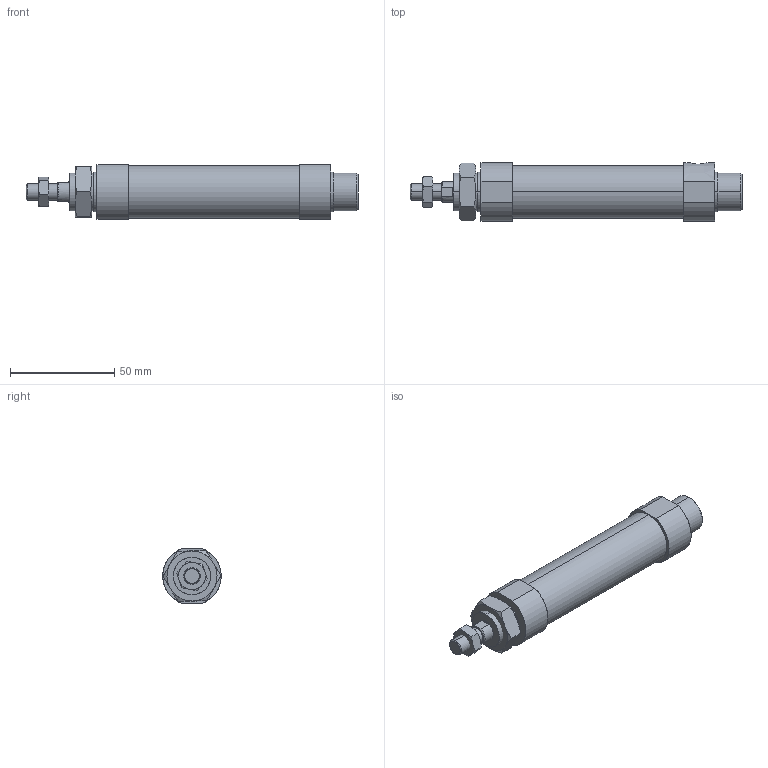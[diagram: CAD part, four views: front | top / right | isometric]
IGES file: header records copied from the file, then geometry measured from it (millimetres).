
Start section: SolidWorks IGES file using analytic representation for surfaces
Global section: file name: C:\Users\Toshiba\Desktop\J#1-20-15(25)-N.IGS; native system: SolidWorks 2014; preprocessor: SolidWorks 2014; author: Toshiba; date: 160308.144154; units: millimetre
Bounding box: 159 x 28 x 26 mm (x, y, z)
Surface area: 15009.3 mm2 (no closed solid volume)
Topology: 0 solids, 0 shells, 89 faces, 1514 edges, 1514 vertices
Faces by surface type: bspline 59, revolution 30
